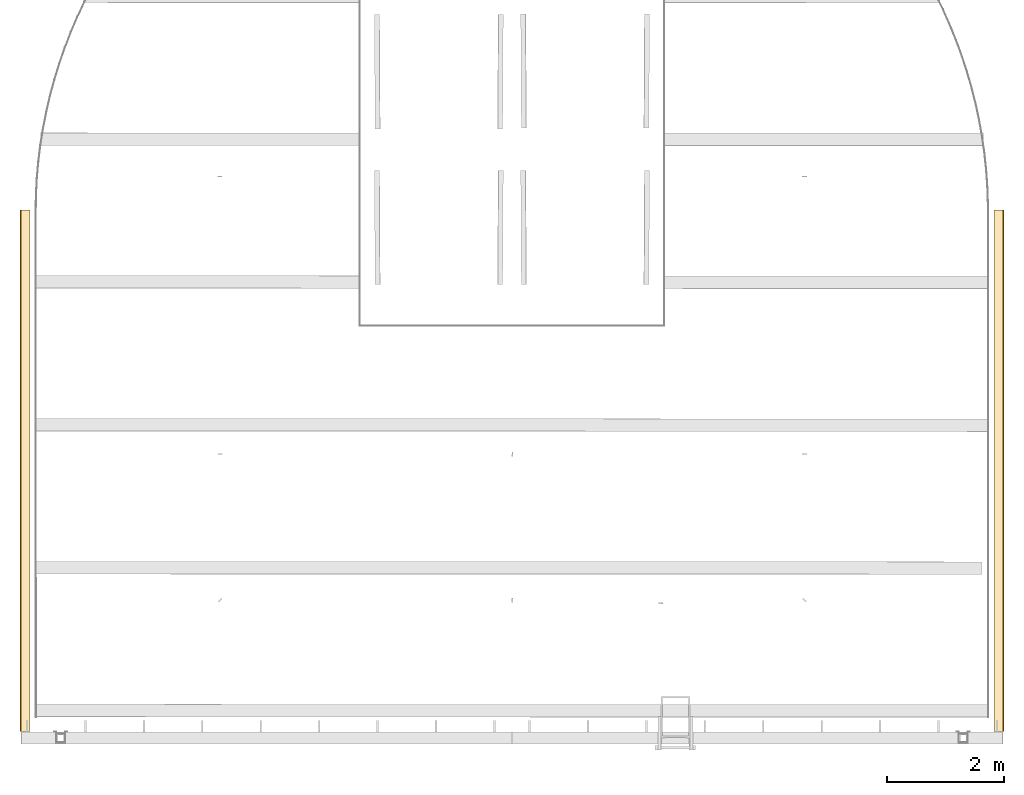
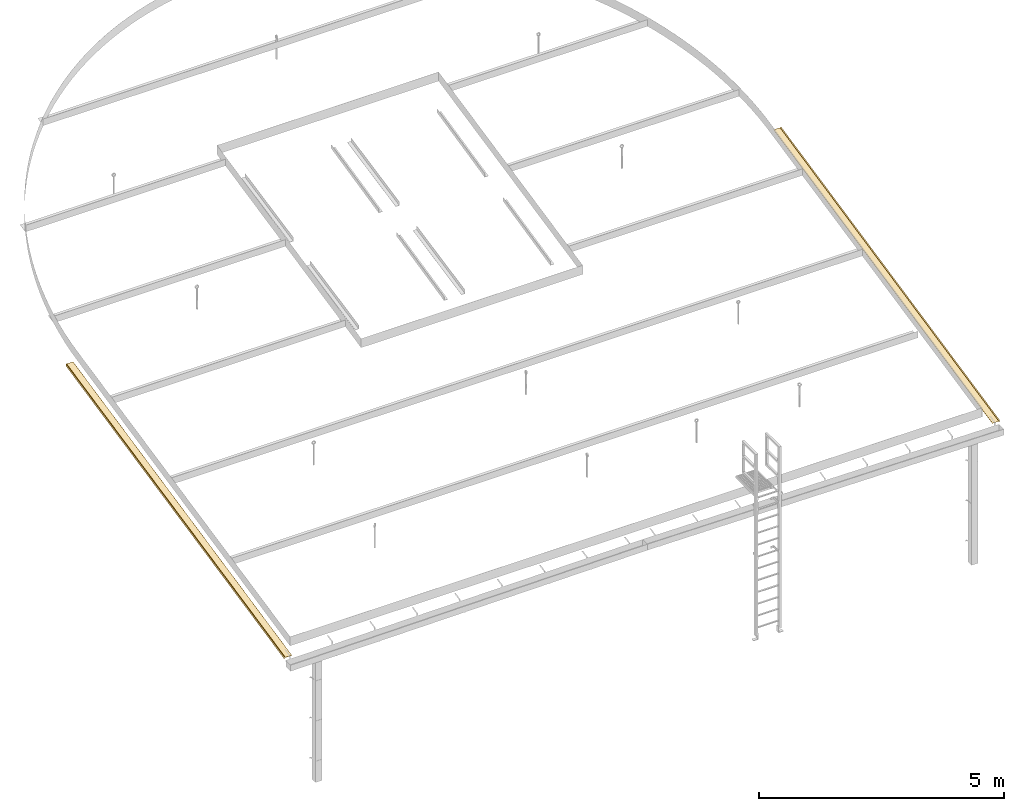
# One storey, part 6 of 7: 2 coverings.
"""IFC4 building model written with IfcOpenShell, lengths in millimetres."""

from ifc_helpers import new_model, entity, si_unit, converted_unit, derived_unit, direction, frame, origin_with_axes, place, context, subcontext, project, spatial, line, indexed_curve, outline, composite_profile, extrude, clip, halfspace, material, material_profile, profile_set, type_object, element, save


model = new_model("IFC4")

# Units and contexts
model_context = context("Model", 3, precision=0.01, world=origin_with_axes(), true_north=direction((0.0, 1.0)))
body_context = subcontext(model_context, "Body", "Model", "MODEL_VIEW")
ifc_project = project(units=[si_unit("LENGTHUNIT", "METRE", prefix="MILLI"), si_unit("AREAUNIT", "SQUARE_METRE"), si_unit("VOLUMEUNIT", "CUBIC_METRE"), converted_unit("PLANEANGLEUNIT", "DEGREE", entity("IfcPlaneAngleMeasure", 0.0174532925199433), si_unit("PLANEANGLEUNIT", "RADIAN"), dimensions=[0, 0, 0, 0, 0, 0, 0]), converted_unit("TIMEUNIT", "Year", entity("IfcTimeMeasure", 31557600.0), si_unit("TIMEUNIT", "SECOND"), dimensions=[0, 0, 1, 0, 0, 0, 0]), si_unit("MASSUNIT", "GRAM", prefix="KILO"), si_unit("THERMODYNAMICTEMPERATUREUNIT", "DEGREE_CELSIUS"), si_unit("LUMINOUSINTENSITYUNIT", "LUMEN"), si_unit("ENERGYUNIT", "JOULE", prefix="MEGA"), derived_unit("THERMALCONDUCTANCEUNIT", [(si_unit("POWERUNIT", "WATT"), 1), (si_unit("LENGTHUNIT", "METRE"), -1), (si_unit("THERMODYNAMICTEMPERATUREUNIT", "KELVIN"), -1)]), derived_unit("SPECIFICHEATCAPACITYUNIT", [(si_unit("ENERGYUNIT", "JOULE"), 1), (si_unit("MASSUNIT", "GRAM", prefix="KILO"), -1), (si_unit("THERMODYNAMICTEMPERATUREUNIT", "KELVIN"), -1)]), derived_unit("MASSDENSITYUNIT", [(si_unit("MASSUNIT", "GRAM", prefix="KILO"), 1), (si_unit("VOLUMEUNIT", "CUBIC_METRE"), -1)])], contexts=[model_context])

# Site, building, storey
site_placement = place(None, origin_with_axes())
site = spatial("IfcSite", under=ifc_project, at=site_placement, Name="Exteriér", CompositionType="ELEMENT")
building_placement = place(site_placement, origin_with_axes())
building = spatial("IfcBuilding", under=site, at=building_placement, Name="Univerzitní lezecké centrum", CompositionType="ELEMENT")
storey_placement = place(building_placement, frame((0.0, 0.0, 12800.0), z_axis=(0.0, 0.0, 1.0), x_axis=(1.0, 0.0, 0.0)))
storey = spatial("IfcBuildingStorey", under=building, at=storey_placement, Name="Střecha", CompositionType="ELEMENT", Elevation=12800.0)

# Coverings
ifc_material_1 = material(Name="Hliník")
ifc_material_profile_1 = material_profile(ifc_material_1, outline(indexed_curve([(6.36396103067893, 7.778174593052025), (0.9999999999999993, 2.414213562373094), (0.9999999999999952, 57.58578643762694), (20.79898987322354, 37.78679656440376), (171.2132034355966, 37.78679656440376), (171.2132034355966, 38.78679656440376), (21.21320343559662, 38.78679656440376), (0.0, 60.0), (0.0, 0.0), (7.071067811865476, 7.071067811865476)], segments=[line(1, 2, 3, 4, 5, 6, 7, 8, 9, 10, 1)])), Name="Hliník")
ifc_material_2 = material(Name="Hydroizolace - TPO fólie")
ifc_material_profile_2 = material_profile(ifc_material_2, outline(indexed_curve([(171.2265357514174, 40.78679537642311), (21.21320388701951, 40.78679537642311), (21.21320388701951, 38.78679682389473), (171.2132043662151, 38.78679682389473), (172.2132036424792, 37.78679754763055), (174.2265361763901, 37.78679754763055)], segments=[line(1, 2, 3, 4, 5, 6, 1)])), Name="Hydroizolace - TPO fólie")
ifc_profile_set = profile_set([ifc_material_profile_1, ifc_material_profile_2], Name="Závětrná lišta", composite=composite_profile([outline(indexed_curve([(6.36396103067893, 7.778174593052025), (0.9999999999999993, 2.414213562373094), (0.9999999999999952, 57.58578643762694), (20.79898987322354, 37.78679656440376), (171.2132034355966, 37.78679656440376), (171.2132034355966, 38.78679656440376), (21.21320343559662, 38.78679656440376), (0.0, 60.0), (0.0, 0.0), (7.071067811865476, 7.071067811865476)], segments=[line(1, 2, 3, 4, 5, 6, 7, 8, 9, 10, 1)])), outline(indexed_curve([(171.2265357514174, 40.78679537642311), (21.21320388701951, 40.78679537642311), (21.21320388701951, 38.78679682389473), (171.2132043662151, 38.78679682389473), (172.2132036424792, 37.78679754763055), (174.2265361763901, 37.78679754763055)], segments=[line(1, 2, 3, 4, 5, 6, 1)]))]))
covering_type = type_object("IfcCoveringType", Name="Závětrná lišta 174 x 60", PredefinedType="CEILING")
covering_1_placement = place(storey_placement, frame((-5971.360766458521, -499.5616015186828, -41.15185113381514), z_axis=(0.0, 0.0, 1.0), x_axis=(1.0, 0.0, 0.0)))
element("IfcCovering", 1, at=covering_1_placement, inside=storey, type_object=covering_type, material=ifc_profile_set, Name="KV09", PredefinedType="CEILING", context=body_context, shape_type="Clipping", body=[
    clip(clip(extrude(composite_profile([outline(indexed_curve([(6.36396103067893, 7.778174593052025), (0.9999999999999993, 2.414213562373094), (0.9999999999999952, 57.58578643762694), (20.79898987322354, 37.78679656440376), (171.2132034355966, 37.78679656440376), (171.2132034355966, 38.78679656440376), (21.21320343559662, 38.78679656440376), (0.0, 60.0), (0.0, 0.0), (7.071067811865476, 7.071067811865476)], segments=[line(1, 2, 3, 4, 5, 6, 7, 8, 9, 10, 1)])), outline(indexed_curve([(171.2265357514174, 40.78679537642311), (21.21320388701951, 40.78679537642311), (21.21320388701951, 38.78679682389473), (171.2132043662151, 38.78679682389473), (172.2132036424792, 37.78679754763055), (174.2265361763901, 37.78679754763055)], segments=[line(1, 2, 3, 4, 5, 6, 1)]))]), frame((0.0, 8977.184951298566, 1908.159566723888), z_axis=(0.0, -0.9781476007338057, -0.2079116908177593), x_axis=(1.0, 0.0, 0.0)), (0.0, 0.0, 1.0), 9230.11316496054), halfspace(frame((0.0, 0.0, 0.0), z_axis=(0.0, 1.0, 0.0), x_axis=(0.0, 0.0, 1.0)), True)), halfspace(frame((0.0, 8925.956855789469, 0.0), z_axis=(0.0, -1.0, 0.0), x_axis=(0.0, 0.0, -1.0)), True)),
])
covering_2_placement = place(storey_placement, frame((10871.06406417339, -499.5616015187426, -41.15185113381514), z_axis=(0.0, 0.0, 1.0), x_axis=(1.0, 0.0, 0.0)))
element("IfcCovering", 2, at=covering_2_placement, inside=storey, type_object=covering_type, material=ifc_profile_set, Name="KV09", PredefinedType="CEILING", context=body_context, shape_type="Clipping", body=[
    clip(clip(extrude(composite_profile([outline(indexed_curve([(6.36396103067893, 7.778174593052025), (0.9999999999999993, 2.414213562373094), (0.9999999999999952, 57.58578643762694), (20.79898987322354, 37.78679656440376), (171.2132034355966, 37.78679656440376), (171.2132034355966, 38.78679656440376), (21.21320343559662, 38.78679656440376), (0.0, 60.0), (0.0, 0.0), (7.071067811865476, 7.071067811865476)], segments=[line(1, 2, 3, 4, 5, 6, 7, 8, 9, 10, 1)])), outline(indexed_curve([(171.2265357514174, 40.78679537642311), (21.21320388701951, 40.78679537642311), (21.21320388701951, 38.78679682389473), (171.2132043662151, 38.78679682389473), (172.2132036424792, 37.78679754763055), (174.2265361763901, 37.78679754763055)], segments=[line(1, 2, 3, 4, 5, 6, 1)]))]), frame((0.0, 8977.184951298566, 1908.159566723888), z_axis=(0.0, 0.9781476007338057, 0.2079116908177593), x_axis=(-1.0, 0.0, 0.0)), (0.0, 0.0, -1.0), 9230.11316496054), halfspace(frame((0.0, 0.0, 0.0), z_axis=(0.0, 1.0, 0.0), x_axis=(0.0, 0.0, 1.0)), True)), halfspace(frame((0.0, 8925.956855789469, 0.0), z_axis=(0.0, -1.0, 0.0), x_axis=(0.0, 0.0, -1.0)), True)),
])

save(model, "model.ifc")
